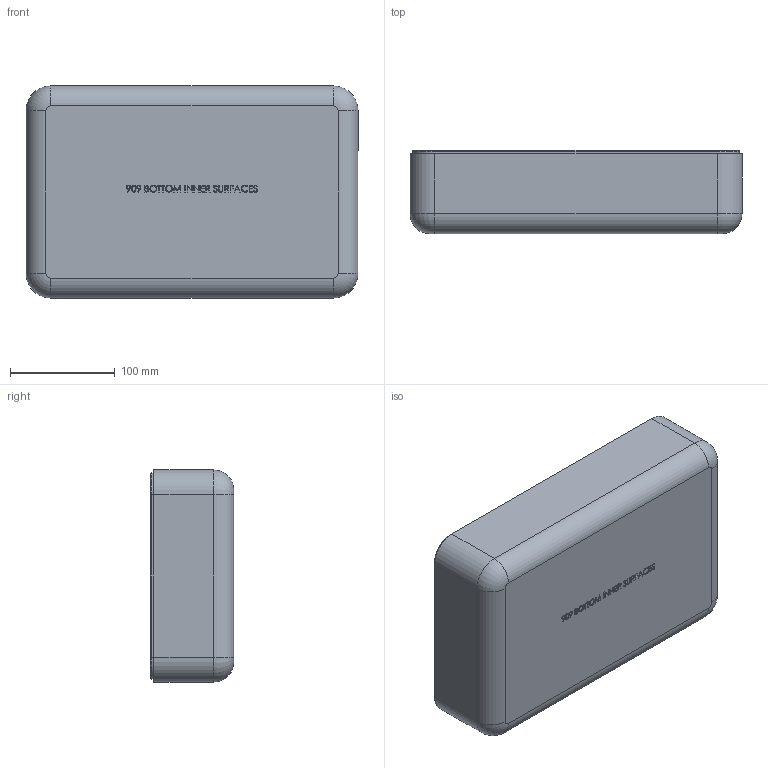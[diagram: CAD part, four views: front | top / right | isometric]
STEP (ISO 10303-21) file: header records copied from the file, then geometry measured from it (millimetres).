
FILE_DESCRIPTION (( 'STEP AP203' ), '1' );
FILE_NAME ('909_Btm_Inner_Surfaces.STEP', '2017-11-21T20:52:11', ( '' ), ( '' ), 'SwSTEP 2.0', 'SolidWorks 2015', '' );
FILE_SCHEMA (( 'CONFIG_CONTROL_DESIGN' ));
Products named in the file (1): 909_Btm_Inner_Surfaces
Bounding box: 316.29 x 79.5 x 201.99 mm (x, y, z)
Volume: 1609748.6 mm3; surface area: 255122 mm2
Topology: 1 solids, 1 shells, 980 faces, 2377 edges, 1448 vertices
Faces by surface type: bspline 400, plane 260, cylinder 136, torus 126, cone 56, sphere 2
Entity records: 73266 total; most frequent: CARTESIAN_POINT 53211, ORIENTED_EDGE 4742, DIRECTION 3346, EDGE_CURVE 2371, VERTEX_POINT 1448, AXIS2_PLACEMENT_3D 1254, EDGE_LOOP 1035, FACE_OUTER_BOUND 980
